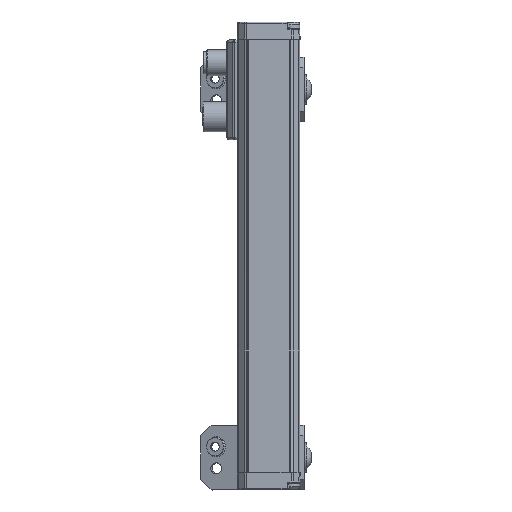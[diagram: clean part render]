
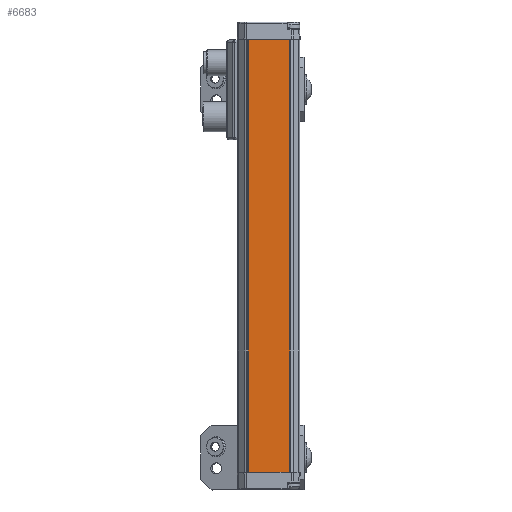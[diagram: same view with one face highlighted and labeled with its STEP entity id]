
A CAD part, left-side view. The second image highlights one B-rep face of the part: STEP entity #6683.
In plain terms, the highlighted planar face has unit normal (-1, 0, 0).
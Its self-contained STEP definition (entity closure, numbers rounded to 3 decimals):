
#5934=FACE_OUTER_BOUND('',#9848,.T.);
#6683=ADVANCED_FACE('4-0-5',(#5934),#7533,.T.);
#7533=PLANE('',#19621);
#8066=LINE('',#25947,#8781);
#8072=LINE('',#25959,#8787);
#8074=LINE('',#25963,#8789);
#8075=LINE('',#25964,#8790);
#8781=VECTOR('',#21370,1.);
#8787=VECTOR('',#21380,1.);
#8789=VECTOR('',#21384,1.);
#8790=VECTOR('',#21385,1.);
#9848=EDGE_LOOP('',(#11362,#11363,#11364,#11365));
#11362=ORIENTED_EDGE('',*,*,#17045,.F.);
#11363=ORIENTED_EDGE('',*,*,#17047,.F.);
#11364=ORIENTED_EDGE('',*,*,#17039,.F.);
#11365=ORIENTED_EDGE('',*,*,#17048,.F.);
#15450=VERTEX_POINT('',#25946);
#15451=VERTEX_POINT('',#25948);
#15454=VERTEX_POINT('',#25958);
#15455=VERTEX_POINT('',#25960);
#17039=EDGE_CURVE('',#15450,#15451,#8066,.T.);
#17045=EDGE_CURVE('',#15454,#15455,#8072,.T.);
#17047=EDGE_CURVE('',#15451,#15454,#8074,.T.);
#17048=EDGE_CURVE('',#15455,#15450,#8075,.T.);
#19621=AXIS2_PLACEMENT_3D('',#25965,#21386,#21387);
#21370=DIRECTION('',(0.,0.,1.));
#21380=DIRECTION('',(0.,0.,-1.));
#21384=DIRECTION('',(0.,-1.,0.));
#21385=DIRECTION('',(0.,1.,0.));
#21386=DIRECTION('',(-1.,0.,0.));
#21387=DIRECTION('',(0.,0.,1.));
#25946=CARTESIAN_POINT('',(-33.603,23.796,-48.));
#25947=CARTESIAN_POINT('',(-33.602,23.796,9.2));
#25948=CARTESIAN_POINT('',(-33.599,23.798,152.));
#25958=CARTESIAN_POINT('',(-33.597,4.598,152.));
#25959=CARTESIAN_POINT('',(-33.597,4.598,152.));
#25960=CARTESIAN_POINT('',(-33.602,4.596,-48.));
#25963=CARTESIAN_POINT('',(-33.599,23.898,152.));
#25964=CARTESIAN_POINT('',(-33.603,14.296,-48.));
#25965=CARTESIAN_POINT('',(-33.601,3.526,2.06));
